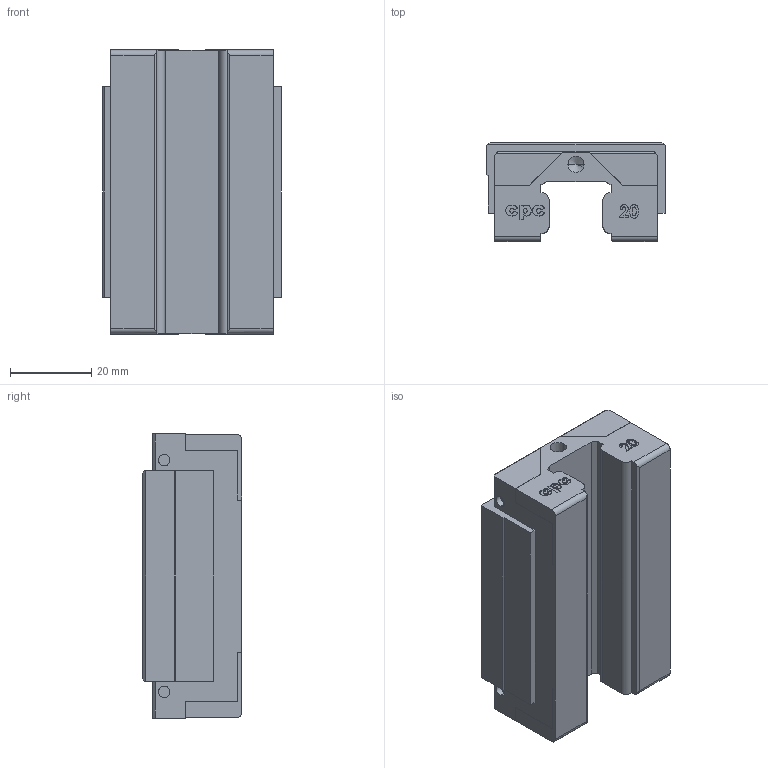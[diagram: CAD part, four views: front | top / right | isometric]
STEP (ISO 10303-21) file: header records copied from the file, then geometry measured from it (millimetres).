
FILE_DESCRIPTION (( 'STEP AP203' ), '1' );
FILE_NAME ('HR20MN.STEP', '2009-08-03T10:39:55', ( 'cpc' ), ( '' ), 'SwSTEP 2.0', 'SolidWorks 2007', '' );
FILE_SCHEMA (( 'CONFIG_CONTROL_DESIGN' ));
Length unit declared in the file: millimetre
Products named in the file (1): HR20MN
Bounding box: 44 x 24.5 x 70.2 mm (x, y, z)
Volume: 54297.4 mm3; surface area: 14035.2 mm2
Topology: 1 solids, 1 shells, 266 faces, 706 edges, 458 vertices
Faces by surface type: plane 118, bspline 90, cylinder 38, cone 20
Entity records: 12989 total; most frequent: CARTESIAN_POINT 6951, ORIENTED_EDGE 1388, DIRECTION 936, EDGE_CURVE 694, VERTEX_POINT 458, VECTOR 422, LINE 422, EDGE_LOOP 294
